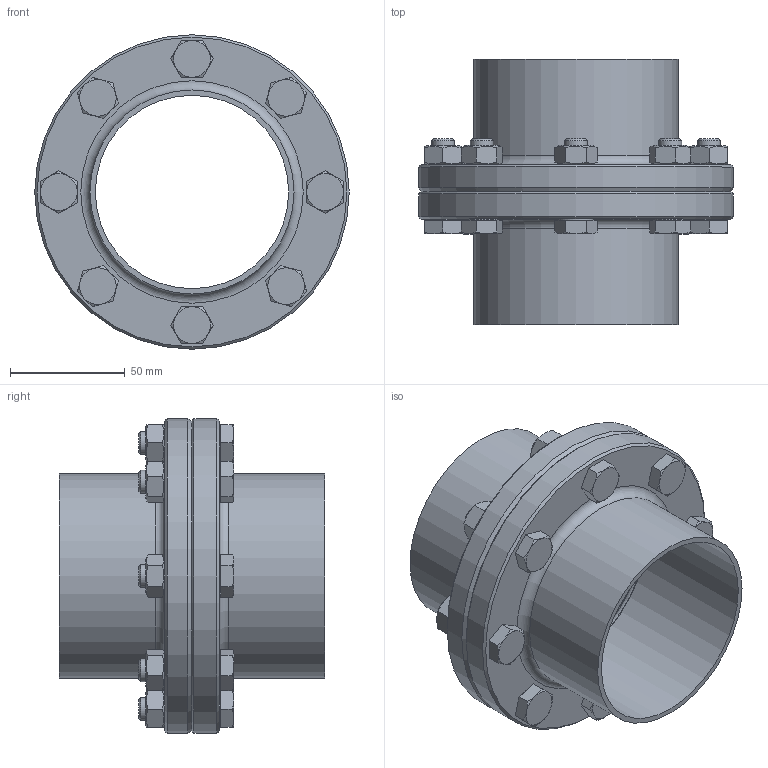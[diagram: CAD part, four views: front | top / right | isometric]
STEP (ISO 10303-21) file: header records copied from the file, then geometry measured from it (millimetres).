
FILE_DESCRIPTION(/* description */ ('DIN11864-2-A_88,9x2_L120_Fl137'),/* implementation_level */ '2;1');
FILE_NAME(/* name */ 'DIN11864-2-A_88,9x2_L120_Fl137.stp',/* time_stamp */ '2015-01-07T13:14:58+01:00',/* author */ ('DOCKWEILER AG'),/* organization */ ('DOCKWEILER AG'),/* preprocessor_version */ 'ST-DEVELOPER v15.6',/* originating_system */ 'Autodesk Inventor 2015',/* authorisation */ '');
FILE_SCHEMA (('CONFIG_CONTROL_DESIGN'));
Length unit declared in the file: millimetre
Products named in the file (6): N0003_007_003_22; N0003_007_004_22; N005_005_002_001_21; ISO 4017 - M10 x 35ISO; ISO 4032 - M10ISO; N0024_002_002
Assembly tree (19 placements, depth 2):
  N0024_002_002
    N0003_007_003_22
    N0003_007_004_22
    N005_005_002_001_21
    ISO 4017 - M10 x 35ISO  x8
    ISO 4032 - M10ISO  x8
Bounding box: 137 x 115.7 x 137 mm (x, y, z)
Volume: 301649.7 mm3; surface area: 133107.4 mm2
Topology: 19 solids, 19 shells, 310 faces, 658 edges, 406 vertices
Faces by surface type: plane 154, cone 96, cylinder 48, torus 12
Full cylindrical faces by diameter (mm): 8.376 x8, 10 x8, 11 x16, 14.63 x8, 84.3 x2, 88.9 x2, 100.9 x1, 101 x1, 137 x2
Entity records: 2417 total; most frequent: DIRECTION 416, CARTESIAN_POINT 400, ORIENTED_EDGE 260, AXIS2_PLACEMENT_3D 199, EDGE_LOOP 183, EDGE_CURVE 130, VERTEX_POINT 111, FACE_BOUND 97
